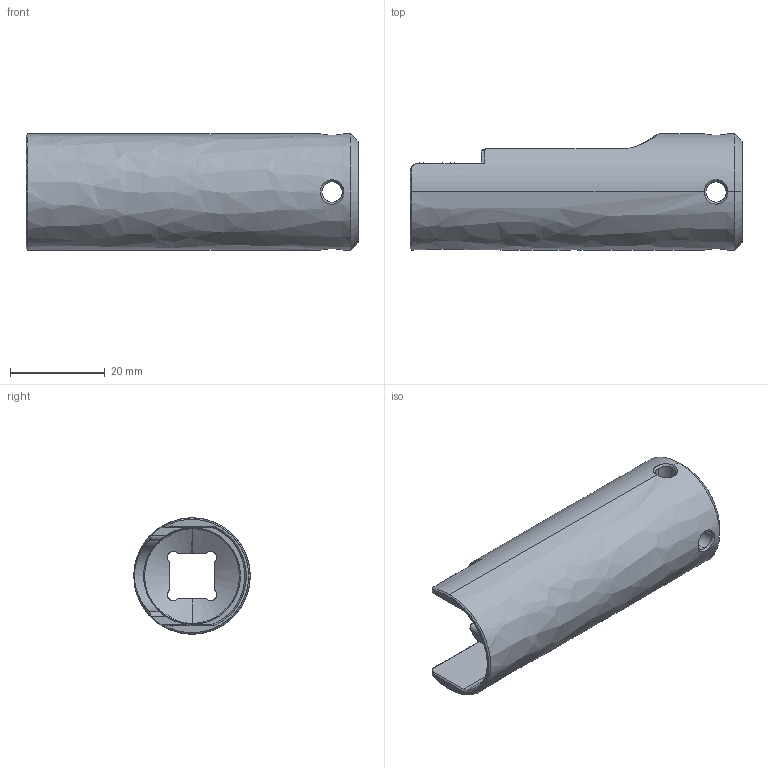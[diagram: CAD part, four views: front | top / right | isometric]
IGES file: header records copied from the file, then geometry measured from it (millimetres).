
Start section: SolidWorks IGES file using analytic representation for surfaces
Global section: file name: C:\Users\emill\Blue Robotics Dropbox\Eldin Miller-Stead\BR-Engineering\PROJECTS\WLP\MODELS\RELEASES\PUBLIC\0 - WL-M14-BULKHEAD-WRENCH\WL-M14-BULKHEAD-WRENCH-R1.IGS; native system: SolidWorks 2020; preprocessor: SolidWorks 2020; author: emill; date: 211024.173614; units: millimetre
Bounding box: 70 x 24.5 x 24.5 mm (x, y, z)
Surface area: 8686.4 mm2 (no closed solid volume)
Topology: 0 solids, 0 shells, 78 faces, 1487 edges, 1487 vertices
Faces by surface type: revolution 45, bspline 33
